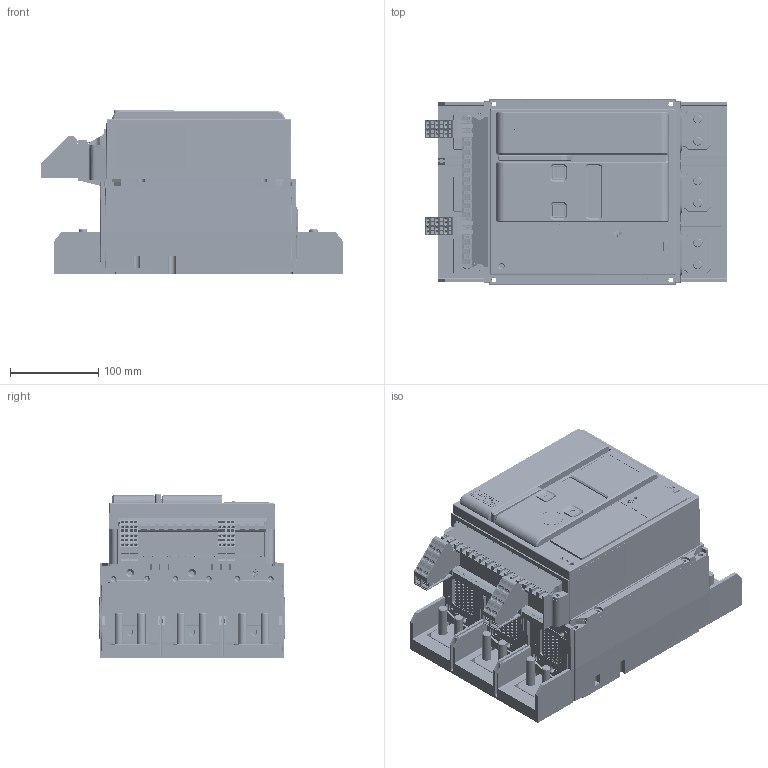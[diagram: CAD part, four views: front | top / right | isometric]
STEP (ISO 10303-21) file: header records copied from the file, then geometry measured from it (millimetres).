
FILE_DESCRIPTION((''),'2;1');
FILE_NAME('ASM0002_SW0001','2019-10-11T',('li.xiong'),(''),'PRO/ENGINEER BY PARAMETRIC TECHNOLOGY CORPORATION, 2015440','PRO/ENGINEER BY PARAMETRIC TECHNOLOGY CORPORATION, 2015440','');
FILE_SCHEMA(('CONFIG_CONTROL_DESIGN'));
Products named in the file (1): ASM0002_SW0001
Bounding box: 340.9 x 210 x 185.97 mm (x, y, z)
Volume: 8083065.7 mm3; surface area: 747686.2 mm2
Topology: 2 solids, 8 shells, 11260 faces, 29040 edges, 18892 vertices
Faces by surface type: plane 6788, cylinder 3628, extrusion 465, cone 207, torus 86, sphere 54, bspline 32
Entity records: 351047 total; most frequent: CARTESIAN_POINT 71608, ORIENTED_EDGE 57984, DIRECTION 57421, EDGE_CURVE 28992, VECTOR 19997, LINE 19532, VERTEX_POINT 18892, AXIS2_PLACEMENT_3D 18712
